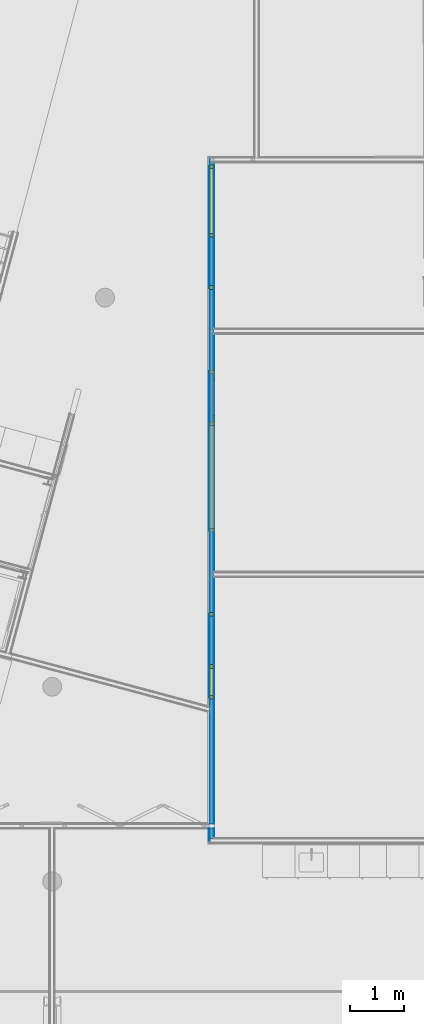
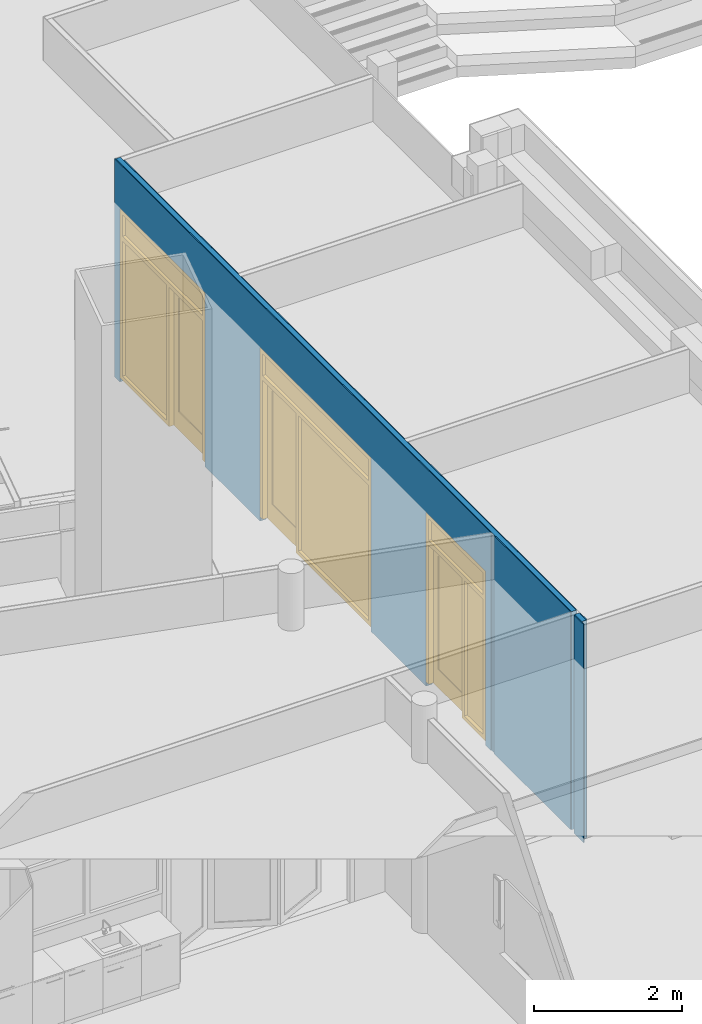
# One storey, part 57 of 167: 3 building element parts, 3 doors, 3 openings, 1 element without a shape of its own.
"""IFC2X3 building model written with IfcOpenShell, lengths in millimetres."""

from ifc_helpers import new_model, entity, si_unit, converted_unit, derived_unit, money_unit, direction, frame, origin_with_axes, place, context, subcontext, project, spatial, open_shell, faceted_brep, surface_model, material, type_object, element, fill, aggregate, save


model = new_model("IFC2X3")

# Units and contexts
model_context = context("Model", 3, precision=0.01, world=origin_with_axes(), true_north=direction((0.0, 1.0)))
plan_context = context("Plan", 3, precision=0.01, world=origin_with_axes(), true_north=direction((0.0, 1.0)))
body_context = subcontext(model_context, "Body", "Model", "MODEL_VIEW")
ifc_project = project(units=[si_unit("LENGTHUNIT", "METRE", prefix="MILLI"), si_unit("AREAUNIT", "SQUARE_METRE"), si_unit("VOLUMEUNIT", "CUBIC_METRE"), converted_unit("PLANEANGLEUNIT", "DEGREE", entity("IfcPlaneAngleMeasure", 0.0174532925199), si_unit("PLANEANGLEUNIT", "RADIAN"), dimensions=[0, 0, 0, 0, 0, 0, 0]), si_unit("SOLIDANGLEUNIT", "STERADIAN"), money_unit("EUR"), converted_unit("TIMEUNIT", "Year", entity("IfcTimeMeasure", 31556926.0), si_unit("TIMEUNIT", "SECOND"), dimensions=[0, 0, 1, 0, 0, 0, 0]), si_unit("MASSUNIT", "GRAM", prefix="KILO"), si_unit("THERMODYNAMICTEMPERATUREUNIT", "DEGREE_CELSIUS"), si_unit("LUMINOUSINTENSITYUNIT", "LUMEN"), si_unit("ENERGYUNIT", "JOULE", prefix="MEGA"), derived_unit("THERMALCONDUCTANCEUNIT", [(si_unit("POWERUNIT", "WATT"), 1), (si_unit("LENGTHUNIT", "METRE"), -1), (si_unit("THERMODYNAMICTEMPERATUREUNIT", "KELVIN"), -1)]), derived_unit("SPECIFICHEATCAPACITYUNIT", [(si_unit("ENERGYUNIT", "JOULE"), 1), (si_unit("MASSUNIT", "GRAM", prefix="KILO"), -1), (si_unit("THERMODYNAMICTEMPERATUREUNIT", "KELVIN"), -1)]), derived_unit("MASSDENSITYUNIT", [(si_unit("MASSUNIT", "GRAM", prefix="KILO"), 1), (si_unit("VOLUMEUNIT", "CUBIC_METRE"), -1)])], contexts=[model_context, plan_context])

# Site, building, storey
site_placement = place(None, origin_with_axes())
site = spatial("IfcSite", under=ifc_project, at=site_placement, Name="Site", CompositionType="ELEMENT")
building_placement = place(site_placement, origin_with_axes())
building = spatial("IfcBuilding", under=site, at=building_placement, Name="Naam gebouw", CompositionType="ELEMENT")
storey_placement = place(building_placement, origin_with_axes())
storey = spatial("IfcBuildingStorey", under=building, at=storey_placement, Name="Begane grond", CompositionType="ELEMENT", Elevation=0.0)

# Door
door_style_1 = type_object("IfcDoorStyle", Name="D1 bl zl1-b 24", ConstructionType="NOTDEFINED", OperationType="SINGLE_SWING_LEFT", ParameterTakesPrecedence=False, Sizeable=False)
wall_placement = place(storey_placement, frame((24550.0, 7950.0, -100.0), z_axis=(0.0, 0.0, 1.0), x_axis=(0.0, 1.0, 0.0)))
opening_1_placement = place(wall_placement, frame((3425.0, 0.0, 100.0), z_axis=(0.0, 0.0, 1.0), x_axis=(1.0, 0.0, 0.0)))
door_1_placement = place(opening_1_placement, frame((800.0, 0.0, 0.0), z_axis=(0.0, 0.0, 1.0), x_axis=(-1.0, 0.0, 0.0)))
door_1 = element("IfcDoor", 1, at=door_1_placement, inside=storey, type_object=door_style_1, Name="32_Deur_Hi-50", ObjectType="DOOR", OverallHeight=2800.0, OverallWidth=1600.0, context=body_context, shape_type="SurfaceModel", body=[
    faceted_brep([(1600.0, 64.0, 0.0), (1600.0, -50.0, 0.0), (1533.0, -50.0, 0.0), (1533.0, 64.0, 0.0), (1600.0, 64.0, 2733.0), (1600.0, -50.0, 2733.0), (1533.0, -50.0, 2733.0), (1533.0, -50.0, 2375.0), (1533.0, -50.0, 2300.0), (1533.0, -50.0, 67.0), (1533.0, 64.0, 67.0), (1533.0, 64.0, 2300.0), (1533.0, 64.0, 2375.0), (1533.0, 64.0, 2733.0)], [[[0, 1, 2, 3]], [[4, 5, 1, 0]], [[1, 5, 6, 7, 8, 9, 2]], [[3, 2, 9, 10]], [[0, 3, 10, 11, 12, 13, 4]], [[13, 6, 5, 4]], [[12, 7, 6, 13]], [[11, 8, 7, 12]], [[10, 9, 8, 11]]]),
    faceted_brep([(967.0, 24.0, 0.0), (967.0, -50.0, 0.0), (967.0, -50.0, 2300.0), (967.0, 24.0, 2300.0), (992.0, 24.0, 0.0), (992.0, 64.0, 0.0), (1034.0, 64.0, 0.0), (1034.0, -50.0, 0.0), (1034.0, -50.0, 67.0), (1034.0, -50.0, 2300.0), (992.0, 24.0, 2300.0), (1034.0, 64.0, 2300.0), (992.0, 64.0, 2300.0), (1034.0, 64.0, 67.0)], [[[0, 1, 2, 3]], [[4, 5, 6, 7, 1, 0]], [[7, 8, 9, 2, 1]], [[10, 3, 2, 9, 11, 12]], [[10, 4, 0, 3]], [[12, 5, 4, 10]], [[12, 11, 13, 6, 5]], [[6, 13, 8, 7]], [[13, 11, 9, 8]]]),
    faceted_brep([(1533.0, 64.0, 67.0), (1533.0, -50.0, 67.0), (1533.0, -50.0, 0.0), (1533.0, 64.0, 0.0), (1034.0, 64.0, 67.0), (1034.0, -50.0, 67.0), (1034.0, -50.0, 0.0), (1034.0, 64.0, 0.0)], [[[0, 1, 2, 3]], [[4, 5, 1, 0]], [[1, 5, 6, 2]], [[3, 2, 6, 7]], [[0, 3, 7, 4]], [[7, 6, 5, 4]]]),
    faceted_brep([(42.0, 64.0, 2325.0), (42.0, 64.0, 0.0), (0.0, 64.0, 0.0), (0.0, 64.0, 2733.0), (67.0, 64.0, 2733.0), (67.0, 64.0, 2375.0), (67.0, 64.0, 2325.0), (42.0, 24.0, 2325.0), (42.0, 24.0, 0.0), (67.0, 24.0, 0.0), (67.0, -50.0, 0.0), (0.0, -50.0, 0.0), (0.0, -50.0, 2733.0), (67.0, -50.0, 2733.0), (67.0, -50.0, 2375.0), (67.0, 24.0, 2325.0), (67.0, -50.0, 2300.0)], [[[0, 1, 2, 3, 4, 5, 6]], [[0, 7, 8, 1]], [[8, 9, 10, 11, 2, 1]], [[3, 2, 11, 12]], [[4, 3, 12, 13]], [[5, 4, 13, 14]], [[15, 6, 5, 14, 16, 10, 9]], [[6, 15, 7, 0]], [[8, 7, 15, 9]], [[14, 13, 12, 11, 10, 16]]]),
    faceted_brep([(1600.0, 64.0, 2800.0), (1600.0, -50.0, 2800.0), (1600.0, -50.0, 2733.0), (1600.0, 64.0, 2733.0), (0.0, 64.0, 2800.0), (0.0, -50.0, 2800.0), (0.0, -50.0, 2733.0), (67.0, -50.0, 2733.0), (1533.0, -50.0, 2733.0), (1533.0, 64.0, 2733.0), (67.0, 64.0, 2733.0), (0.0, 64.0, 2733.0)], [[[0, 1, 2, 3]], [[4, 5, 1, 0]], [[1, 5, 6, 7, 8, 2]], [[3, 2, 8, 9]], [[0, 3, 9, 10, 11, 4]], [[11, 6, 5, 4]], [[10, 7, 6, 11]], [[9, 8, 7, 10]]]),
    faceted_brep([(67.0, 24.0, 2325.0), (67.0, 24.0, 2300.0), (67.0, -50.0, 2300.0), (67.0, -50.0, 2375.0), (67.0, 64.0, 2375.0), (67.0, 64.0, 2325.0), (992.0, 24.0, 2325.0), (992.0, 24.0, 2300.0), (967.0, 24.0, 2300.0), (967.0, -50.0, 2300.0), (1034.0, -50.0, 2300.0), (1533.0, -50.0, 2300.0), (1533.0, -50.0, 2375.0), (1533.0, 64.0, 2375.0), (992.0, 64.0, 2325.0), (1533.0, 64.0, 2300.0), (1034.0, 64.0, 2300.0), (992.0, 64.0, 2300.0)], [[[0, 1, 2, 3, 4, 5]], [[0, 6, 7, 8, 1]], [[8, 9, 2, 1]], [[9, 10, 11, 12, 3, 2]], [[13, 4, 3, 12]], [[14, 5, 4, 13, 15, 16, 17]], [[5, 14, 6, 0]], [[17, 7, 6, 14]], [[7, 17, 16, 10, 9, 8]], [[16, 15, 11, 10]], [[15, 13, 12, 11]]]),
    faceted_brep([(42.0, 64.0, 300.0), (192.0, 64.0, 300.0), (192.0, 24.0, 300.0), (42.0, 24.0, 300.0), (42.0, 64.0, 2175.0), (192.0, 64.0, 2175.0), (192.0, 24.0, 2175.0), (42.0, 24.0, 2175.0)], [[[0, 1, 2, 3]], [[0, 4, 5, 1]], [[1, 5, 6, 2]], [[3, 2, 6, 7]], [[4, 0, 3, 7]], [[5, 4, 7, 6]]]),
    faceted_brep([(992.0, 64.0, 300.0), (992.0, 64.0, 2175.0), (992.0, 24.0, 2175.0), (992.0, 24.0, 300.0), (842.0, 64.0, 300.0), (842.0, 64.0, 2175.0), (842.0, 24.0, 2175.0), (842.0, 24.0, 300.0)], [[[0, 1, 2, 3]], [[0, 4, 5, 1]], [[1, 5, 6, 2]], [[3, 2, 6, 7]], [[4, 0, 3, 7]], [[5, 4, 7, 6]]]),
    faceted_brep([(42.0, 64.0, 0.0), (992.0, 64.0, 0.0), (992.0, 24.0, 0.0), (42.0, 24.0, 0.0), (42.0, 64.0, 300.0), (192.0, 64.0, 300.0), (842.0, 64.0, 300.0), (992.0, 64.0, 300.0), (992.0, 24.0, 300.0), (842.0, 24.0, 300.0), (192.0, 24.0, 300.0), (42.0, 24.0, 300.0)], [[[0, 1, 2, 3]], [[0, 4, 5, 6, 7, 1]], [[1, 7, 8, 2]], [[3, 2, 8, 9, 10, 11]], [[4, 0, 3, 11]], [[5, 4, 11, 10]], [[6, 5, 10, 9]], [[7, 6, 9, 8]]]),
    faceted_brep([(42.0, 64.0, 2325.0), (42.0, 64.0, 2175.0), (42.0, 24.0, 2175.0), (42.0, 24.0, 2325.0), (992.0, 64.0, 2325.0), (992.0, 64.0, 2175.0), (842.0, 64.0, 2175.0), (192.0, 64.0, 2175.0), (192.0, 24.0, 2175.0), (842.0, 24.0, 2175.0), (992.0, 24.0, 2175.0), (992.0, 24.0, 2325.0)], [[[0, 1, 2, 3]], [[0, 4, 5, 6, 7, 1]], [[1, 7, 8, 2]], [[3, 2, 8, 9, 10, 11]], [[4, 0, 3, 11]], [[5, 4, 11, 10]], [[6, 5, 10, 9]], [[7, 6, 9, 8]]]),
    surface_model("IfcShellBasedSurfaceModel", [(192.0, 50.0, 300.0), (192.0, 50.0, 2175.0), (842.0, 50.0, 2175.0), (842.0, 50.0, 300.0)], [open_shell([[[0, 1, 2, 3]]])]),
    surface_model("IfcShellBasedSurfaceModel", [(192.0, 38.0, 300.0), (842.0, 38.0, 300.0), (842.0, 38.0, 2175.0), (192.0, 38.0, 2175.0)], [open_shell([[[0, 1, 2, 3]]])]),
    surface_model("IfcShellBasedSurfaceModel", [(1533.0, 10.0, 2375.0), (67.0, 10.0, 2375.0), (67.0, 10.0, 2733.0), (1533.0, 10.0, 2733.0)], [open_shell([[[0, 1, 2, 3]]])]),
    surface_model("IfcShellBasedSurfaceModel", [(1533.0, -2.0, 2375.0), (1533.0, -2.0, 2733.0), (67.0, -2.0, 2733.0), (67.0, -2.0, 2375.0)], [open_shell([[[0, 1, 2, 3]]])]),
    surface_model("IfcShellBasedSurfaceModel", [(1533.0, 10.0, 67.0), (1034.0, 10.0, 67.0), (1034.0, 10.0, 2300.0), (1533.0, 10.0, 2300.0)], [open_shell([[[0, 1, 2, 3]]])]),
    surface_model("IfcShellBasedSurfaceModel", [(1533.0, -2.0, 67.0), (1533.0, -2.0, 2300.0), (1034.0, -2.0, 2300.0), (1034.0, -2.0, 67.0)], [open_shell([[[0, 1, 2, 3]]])]),
])

opening_2_placement = place(wall_placement, frame((7214.66540488, 0.0, 100.0), z_axis=(0.0, 0.0, 1.0), x_axis=(1.0, 0.0, 0.0)))
door_2_placement = place(opening_2_placement, frame((1500.0, 0.0, 0.0), z_axis=(0.0, 0.0, 1.0), x_axis=(-1.0, 0.0, 0.0)))
door_2 = element("IfcDoor", 2, at=door_2_placement, inside=storey, type_object=door_style_1, Name="32_Deur_Hi-14", ObjectType="DOOR", OverallHeight=2800.0, OverallWidth=3000.0, context=body_context, shape_type="SurfaceModel", body=[
    faceted_brep([(3000.0, 64.0, 0.0), (3000.0, -50.0, 0.0), (2933.0, -50.0, 0.0), (2933.0, 64.0, 0.0), (3000.0, 64.0, 2733.0), (3000.0, -50.0, 2733.0), (2933.0, -50.0, 2733.0), (2933.0, -50.0, 2375.0), (2933.0, -50.0, 2300.0), (2933.0, -50.0, 67.0), (2933.0, 64.0, 67.0), (2933.0, 64.0, 2300.0), (2933.0, 64.0, 2375.0), (2933.0, 64.0, 2733.0)], [[[0, 1, 2, 3]], [[4, 5, 1, 0]], [[1, 5, 6, 7, 8, 9, 2]], [[3, 2, 9, 10]], [[0, 3, 10, 11, 12, 13, 4]], [[13, 6, 5, 4]], [[12, 7, 6, 13]], [[11, 8, 7, 12]], [[10, 9, 8, 11]]]),
    faceted_brep([(967.0, 24.0, 0.0), (967.0, -50.0, 0.0), (967.0, -50.0, 2300.0), (967.0, 24.0, 2300.0), (992.0, 24.0, 0.0), (992.0, 64.0, 0.0), (1034.0, 64.0, 0.0), (1034.0, -50.0, 0.0), (1034.0, -50.0, 67.0), (1034.0, -50.0, 2300.0), (992.0, 24.0, 2300.0), (1034.0, 64.0, 2300.0), (992.0, 64.0, 2300.0), (1034.0, 64.0, 67.0)], [[[0, 1, 2, 3]], [[4, 5, 6, 7, 1, 0]], [[7, 8, 9, 2, 1]], [[10, 3, 2, 9, 11, 12]], [[10, 4, 0, 3]], [[12, 5, 4, 10]], [[12, 11, 13, 6, 5]], [[6, 13, 8, 7]], [[13, 11, 9, 8]]]),
    faceted_brep([(2933.0, 64.0, 67.0), (2933.0, -50.0, 67.0), (2933.0, -50.0, 0.0), (2933.0, 64.0, 0.0), (1034.0, 64.0, 67.0), (1034.0, -50.0, 67.0), (1034.0, -50.0, 0.0), (1034.0, 64.0, 0.0)], [[[0, 1, 2, 3]], [[4, 5, 1, 0]], [[1, 5, 6, 2]], [[3, 2, 6, 7]], [[0, 3, 7, 4]], [[7, 6, 5, 4]]]),
    faceted_brep([(42.0, 64.0, 2325.0), (42.0, 64.0, 0.0), (0.0, 64.0, 0.0), (0.0, 64.0, 2733.0), (67.0, 64.0, 2733.0), (67.0, 64.0, 2375.0), (67.0, 64.0, 2325.0), (42.0, 24.0, 2325.0), (42.0, 24.0, 0.0), (67.0, 24.0, 0.0), (67.0, -50.0, 0.0), (0.0, -50.0, 0.0), (0.0, -50.0, 2733.0), (67.0, -50.0, 2733.0), (67.0, -50.0, 2375.0), (67.0, 24.0, 2325.0), (67.0, -50.0, 2300.0)], [[[0, 1, 2, 3, 4, 5, 6]], [[0, 7, 8, 1]], [[8, 9, 10, 11, 2, 1]], [[3, 2, 11, 12]], [[4, 3, 12, 13]], [[5, 4, 13, 14]], [[15, 6, 5, 14, 16, 10, 9]], [[6, 15, 7, 0]], [[8, 7, 15, 9]], [[14, 13, 12, 11, 10, 16]]]),
    faceted_brep([(3000.0, 64.0, 2800.0), (3000.0, -50.0, 2800.0), (3000.0, -50.0, 2733.0), (3000.0, 64.0, 2733.0), (0.0, 64.0, 2800.0), (0.0, -50.0, 2800.0), (0.0, -50.0, 2733.0), (67.0, -50.0, 2733.0), (2933.0, -50.0, 2733.0), (2933.0, 64.0, 2733.0), (67.0, 64.0, 2733.0), (0.0, 64.0, 2733.0)], [[[0, 1, 2, 3]], [[4, 5, 1, 0]], [[1, 5, 6, 7, 8, 2]], [[3, 2, 8, 9]], [[0, 3, 9, 10, 11, 4]], [[11, 6, 5, 4]], [[10, 7, 6, 11]], [[9, 8, 7, 10]]]),
    faceted_brep([(67.0, 24.0, 2325.0), (67.0, 24.0, 2300.0), (67.0, -50.0, 2300.0), (67.0, -50.0, 2375.0), (67.0, 64.0, 2375.0), (67.0, 64.0, 2325.0), (992.0, 24.0, 2325.0), (992.0, 24.0, 2300.0), (967.0, 24.0, 2300.0), (967.0, -50.0, 2300.0), (1034.0, -50.0, 2300.0), (2933.0, -50.0, 2300.0), (2933.0, -50.0, 2375.0), (2933.0, 64.0, 2375.0), (992.0, 64.0, 2325.0), (2933.0, 64.0, 2300.0), (1034.0, 64.0, 2300.0), (992.0, 64.0, 2300.0)], [[[0, 1, 2, 3, 4, 5]], [[0, 6, 7, 8, 1]], [[8, 9, 2, 1]], [[9, 10, 11, 12, 3, 2]], [[13, 4, 3, 12]], [[14, 5, 4, 13, 15, 16, 17]], [[5, 14, 6, 0]], [[17, 7, 6, 14]], [[7, 17, 16, 10, 9, 8]], [[16, 15, 11, 10]], [[15, 13, 12, 11]]]),
    faceted_brep([(42.0, 64.0, 300.0), (192.0, 64.0, 300.0), (192.0, 24.0, 300.0), (42.0, 24.0, 300.0), (42.0, 64.0, 2175.0), (192.0, 64.0, 2175.0), (192.0, 24.0, 2175.0), (42.0, 24.0, 2175.0)], [[[0, 1, 2, 3]], [[0, 4, 5, 1]], [[1, 5, 6, 2]], [[3, 2, 6, 7]], [[4, 0, 3, 7]], [[5, 4, 7, 6]]]),
    faceted_brep([(992.0, 64.0, 300.0), (992.0, 64.0, 2175.0), (992.0, 24.0, 2175.0), (992.0, 24.0, 300.0), (842.0, 64.0, 300.0), (842.0, 64.0, 2175.0), (842.0, 24.0, 2175.0), (842.0, 24.0, 300.0)], [[[0, 1, 2, 3]], [[0, 4, 5, 1]], [[1, 5, 6, 2]], [[3, 2, 6, 7]], [[4, 0, 3, 7]], [[5, 4, 7, 6]]]),
    faceted_brep([(42.0, 64.0, 0.0), (992.0, 64.0, 0.0), (992.0, 24.0, 0.0), (42.0, 24.0, 0.0), (42.0, 64.0, 300.0), (192.0, 64.0, 300.0), (842.0, 64.0, 300.0), (992.0, 64.0, 300.0), (992.0, 24.0, 300.0), (842.0, 24.0, 300.0), (192.0, 24.0, 300.0), (42.0, 24.0, 300.0)], [[[0, 1, 2, 3]], [[0, 4, 5, 6, 7, 1]], [[1, 7, 8, 2]], [[3, 2, 8, 9, 10, 11]], [[4, 0, 3, 11]], [[5, 4, 11, 10]], [[6, 5, 10, 9]], [[7, 6, 9, 8]]]),
    faceted_brep([(42.0, 64.0, 2325.0), (42.0, 64.0, 2175.0), (42.0, 24.0, 2175.0), (42.0, 24.0, 2325.0), (992.0, 64.0, 2325.0), (992.0, 64.0, 2175.0), (842.0, 64.0, 2175.0), (192.0, 64.0, 2175.0), (192.0, 24.0, 2175.0), (842.0, 24.0, 2175.0), (992.0, 24.0, 2175.0), (992.0, 24.0, 2325.0)], [[[0, 1, 2, 3]], [[0, 4, 5, 6, 7, 1]], [[1, 7, 8, 2]], [[3, 2, 8, 9, 10, 11]], [[4, 0, 3, 11]], [[5, 4, 11, 10]], [[6, 5, 10, 9]], [[7, 6, 9, 8]]]),
    surface_model("IfcShellBasedSurfaceModel", [(192.0, 50.0, 300.0), (192.0, 50.0, 2175.0), (842.0, 50.0, 2175.0), (842.0, 50.0, 300.0)], [open_shell([[[0, 1, 2, 3]]])]),
    surface_model("IfcShellBasedSurfaceModel", [(192.0, 38.0, 300.0), (842.0, 38.0, 300.0), (842.0, 38.0, 2175.0), (192.0, 38.0, 2175.0)], [open_shell([[[0, 1, 2, 3]]])]),
    surface_model("IfcShellBasedSurfaceModel", [(2933.0, 9.99999999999, 2375.0), (67.0, 10.0, 2375.0), (67.0, 10.0, 2733.0), (2933.0, 9.99999999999, 2733.0)], [open_shell([[[0, 1, 2, 3]]])]),
    surface_model("IfcShellBasedSurfaceModel", [(2933.0, -2.0, 2375.0), (2933.0, -2.0, 2733.0), (67.0, -2.0, 2733.0), (67.0, -2.0, 2375.0)], [open_shell([[[0, 1, 2, 3]]])]),
    surface_model("IfcShellBasedSurfaceModel", [(2933.0, 9.99999999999, 67.0), (1034.0, 10.0, 67.0), (1034.0, 10.0, 2300.0), (2933.0, 9.99999999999, 2300.0)], [open_shell([[[0, 1, 2, 3]]])]),
    surface_model("IfcShellBasedSurfaceModel", [(2933.0, -2.0, 67.0), (2933.0, -2.0, 2300.0), (1034.0, -2.0, 2300.0), (1034.0, -2.0, 67.0)], [open_shell([[[0, 1, 2, 3]]])]),
])

door_style_2 = type_object("IfcDoorStyle", Name="D1 bl zl1-b 24", ConstructionType="NOTDEFINED", OperationType="SINGLE_SWING_RIGHT", ParameterTakesPrecedence=False, Sizeable=False)
opening_3_placement = place(wall_placement, frame((11355.1672976, 0.0, 100.0), z_axis=(0.0, 0.0, 1.0), x_axis=(1.0, 0.0, 0.0)))
door_3_placement = place(opening_3_placement, frame((1150.0, 0.0, 0.0), z_axis=(0.0, 0.0, 1.0), x_axis=(-1.0, 0.0, 0.0)))
door_3 = element("IfcDoor", 3, at=door_3_placement, inside=storey, type_object=door_style_2, Name="32_Deur_Hi-13", ObjectType="DOOR", OverallHeight=2800.0, OverallWidth=2300.0, context=body_context, shape_type="SurfaceModel", body=[
    faceted_brep([(0.0, 64.0, 0.0), (67.0, 64.0, 0.0), (67.0, -50.0, 0.0), (0.0, -50.0, 0.0), (0.0, 64.0, 2733.0), (67.0, 64.0, 2733.0), (67.0, 64.0, 2375.0), (67.0, 64.0, 2300.0), (67.0, 64.0, 67.0), (67.0, -50.0, 67.0), (67.0, -50.0, 2300.0), (67.0, -50.0, 2375.0), (67.0, -50.0, 2733.0), (0.0, -50.0, 2733.0)], [[[0, 1, 2, 3]], [[0, 4, 5, 6, 7, 8, 1]], [[1, 8, 9, 2]], [[3, 2, 9, 10, 11, 12, 13]], [[4, 0, 3, 13]], [[5, 4, 13, 12]], [[6, 5, 12, 11]], [[7, 6, 11, 10]], [[8, 7, 10, 9]]]),
    faceted_brep([(1333.0, 24.0, 0.0), (1333.0, 24.0, 2300.0), (1333.0, -50.0, 2300.0), (1333.0, -50.0, 0.0), (1308.0, 24.0, 2300.0), (1308.0, 24.0, 0.0), (1308.0, 64.0, 2300.0), (1266.0, 64.0, 2300.0), (1266.0, -50.0, 2300.0), (1266.0, -50.0, 0.0), (1266.0, -50.0, 67.0), (1266.0, 64.0, 0.0), (1308.0, 64.0, 0.0), (1266.0, 64.0, 67.0)], [[[0, 1, 2, 3]], [[4, 1, 0, 5]], [[4, 6, 7, 8, 2, 1]], [[9, 3, 2, 8, 10]], [[5, 0, 3, 9, 11, 12]], [[6, 4, 5, 12]], [[6, 12, 11, 13, 7]], [[13, 10, 8, 7]], [[11, 9, 10, 13]]]),
    faceted_brep([(67.0, 64.0, 67.0), (67.0, 64.0, 0.0), (67.0, -50.0, 0.0), (67.0, -50.0, 67.0), (1266.0, 64.0, 67.0), (1266.0, 64.0, 0.0), (1266.0, -50.0, 0.0), (1266.0, -50.0, 67.0)], [[[0, 1, 2, 3]], [[0, 4, 5, 1]], [[1, 5, 6, 2]], [[3, 2, 6, 7]], [[4, 0, 3, 7]], [[5, 4, 7, 6]]]),
    faceted_brep([(2258.0, 64.0, 2325.0), (2233.0, 64.0, 2325.0), (2233.0, 64.0, 2375.0), (2233.0, 64.0, 2733.0), (2300.0, 64.0, 2733.0), (2300.0, 64.0, 0.0), (2258.0, 64.0, 0.0), (2258.0, 24.0, 2325.0), (2233.0, 24.0, 2325.0), (2233.0, 24.0, 0.0), (2233.0, -50.0, 0.0), (2233.0, -50.0, 2300.0), (2233.0, -50.0, 2375.0), (2233.0, -50.0, 2733.0), (2300.0, -50.0, 2733.0), (2300.0, -50.0, 0.0), (2258.0, 24.0, 0.0)], [[[0, 1, 2, 3, 4, 5, 6]], [[1, 0, 7, 8]], [[8, 9, 10, 11, 12, 2, 1]], [[2, 12, 13, 3]], [[3, 13, 14, 4]], [[4, 14, 15, 5]], [[16, 6, 5, 15, 10, 9]], [[0, 6, 16, 7]], [[16, 9, 8, 7]], [[12, 11, 10, 15, 14, 13]]]),
    faceted_brep([(0.0, 64.0, 2800.0), (0.0, 64.0, 2733.0), (0.0, -50.0, 2733.0), (0.0, -50.0, 2800.0), (2300.0, 64.0, 2800.0), (2300.0, 64.0, 2733.0), (2233.0, 64.0, 2733.0), (67.0, 64.0, 2733.0), (67.0, -50.0, 2733.0), (2233.0, -50.0, 2733.0), (2300.0, -50.0, 2733.0), (2300.0, -50.0, 2800.0)], [[[0, 1, 2, 3]], [[0, 4, 5, 6, 7, 1]], [[1, 7, 8, 2]], [[3, 2, 8, 9, 10, 11]], [[4, 0, 3, 11]], [[5, 4, 11, 10]], [[6, 5, 10, 9]], [[7, 6, 9, 8]]]),
    faceted_brep([(2233.0, 24.0, 2325.0), (2233.0, 64.0, 2325.0), (2233.0, 64.0, 2375.0), (2233.0, -50.0, 2375.0), (2233.0, -50.0, 2300.0), (2233.0, 24.0, 2300.0), (1308.0, 24.0, 2325.0), (1308.0, 64.0, 2325.0), (1308.0, 64.0, 2300.0), (1266.0, 64.0, 2300.0), (67.0, 64.0, 2300.0), (67.0, 64.0, 2375.0), (67.0, -50.0, 2375.0), (1333.0, -50.0, 2300.0), (67.0, -50.0, 2300.0), (1266.0, -50.0, 2300.0), (1333.0, 24.0, 2300.0), (1308.0, 24.0, 2300.0)], [[[0, 1, 2, 3, 4, 5]], [[1, 0, 6, 7]], [[7, 8, 9, 10, 11, 2, 1]], [[11, 12, 3, 2]], [[13, 4, 3, 12, 14, 15]], [[16, 5, 4, 13]], [[0, 5, 16, 17, 6]], [[8, 7, 6, 17]], [[17, 16, 13, 15, 9, 8]], [[9, 15, 14, 10]], [[10, 14, 12, 11]]]),
    faceted_brep([(2258.0, 64.0, 300.0), (2258.0, 24.0, 300.0), (2108.0, 24.0, 300.0), (2108.0, 64.0, 300.0), (2258.0, 64.0, 2175.0), (2258.0, 24.0, 2175.0), (2108.0, 24.0, 2175.0), (2108.0, 64.0, 2175.0)], [[[0, 1, 2, 3]], [[4, 5, 1, 0]], [[1, 5, 6, 2]], [[3, 2, 6, 7]], [[0, 3, 7, 4]], [[7, 6, 5, 4]]]),
    faceted_brep([(1308.0, 64.0, 300.0), (1308.0, 24.0, 300.0), (1308.0, 24.0, 2175.0), (1308.0, 64.0, 2175.0), (1458.0, 64.0, 300.0), (1458.0, 24.0, 300.0), (1458.0, 24.0, 2175.0), (1458.0, 64.0, 2175.0)], [[[0, 1, 2, 3]], [[4, 5, 1, 0]], [[1, 5, 6, 2]], [[3, 2, 6, 7]], [[0, 3, 7, 4]], [[7, 6, 5, 4]]]),
    faceted_brep([(2258.0, 64.0, 0.0), (2258.0, 24.0, 0.0), (1308.0, 24.0, 0.0), (1308.0, 64.0, 0.0), (2258.0, 64.0, 300.0), (2258.0, 24.0, 300.0), (2108.0, 24.0, 300.0), (1458.0, 24.0, 300.0), (1308.0, 24.0, 300.0), (1308.0, 64.0, 300.0), (1458.0, 64.0, 300.0), (2108.0, 64.0, 300.0)], [[[0, 1, 2, 3]], [[4, 5, 1, 0]], [[1, 5, 6, 7, 8, 2]], [[3, 2, 8, 9]], [[0, 3, 9, 10, 11, 4]], [[11, 6, 5, 4]], [[10, 7, 6, 11]], [[9, 8, 7, 10]]]),
    faceted_brep([(2258.0, 64.0, 2325.0), (2258.0, 24.0, 2325.0), (2258.0, 24.0, 2175.0), (2258.0, 64.0, 2175.0), (1308.0, 64.0, 2325.0), (1308.0, 24.0, 2325.0), (1308.0, 24.0, 2175.0), (1458.0, 24.0, 2175.0), (2108.0, 24.0, 2175.0), (2108.0, 64.0, 2175.0), (1458.0, 64.0, 2175.0), (1308.0, 64.0, 2175.0)], [[[0, 1, 2, 3]], [[4, 5, 1, 0]], [[1, 5, 6, 7, 8, 2]], [[3, 2, 8, 9]], [[0, 3, 9, 10, 11, 4]], [[11, 6, 5, 4]], [[10, 7, 6, 11]], [[9, 8, 7, 10]]]),
    surface_model("IfcShellBasedSurfaceModel", [(2108.0, 50.0, 300.0), (1458.0, 50.0, 300.0), (1458.0, 50.0, 2175.0), (2108.0, 50.0, 2175.0)], [open_shell([[[0, 1, 2, 3]]])]),
    surface_model("IfcShellBasedSurfaceModel", [(2108.0, 38.0, 300.0), (2108.0, 38.0, 2175.0), (1458.0, 38.0, 2175.0), (1458.0, 38.0, 300.0)], [open_shell([[[0, 1, 2, 3]]])]),
    surface_model("IfcShellBasedSurfaceModel", [(67.0, 10.0, 2375.0), (67.0, 10.0, 2733.0), (2233.0, 10.0, 2733.0), (2233.0, 10.0, 2375.0)], [open_shell([[[0, 1, 2, 3]]])]),
    surface_model("IfcShellBasedSurfaceModel", [(67.0, -2.0, 2375.0), (2233.0, -2.0, 2375.0), (2233.0, -2.0, 2733.0), (67.0, -2.0, 2733.0)], [open_shell([[[0, 1, 2, 3]]])]),
    surface_model("IfcShellBasedSurfaceModel", [(67.0, 10.0, 67.0), (67.0, 10.0, 2300.0), (1266.0, 10.0, 2300.0), (1266.0, 10.0, 67.0)], [open_shell([[[0, 1, 2, 3]]])]),
    surface_model("IfcShellBasedSurfaceModel", [(67.0, -2.0, 67.0), (1266.0, -2.0, 67.0), (1266.0, -2.0, 2300.0), (67.0, -2.0, 2300.0)], [open_shell([[[0, 1, 2, 3]]])]),
])

# Wall, opening
wall_type = type_object("IfcWallType", Name="_TenW_22_Metalstud 100 enkel gipsvezelplaat 100", PredefinedType="NOTDEFINED")
wall = element("IfcWall", 4, at=wall_placement, inside=storey, type_object=wall_type, Name="22_Wand_Wand-x")
opening_1 = element("IfcOpeningElement", 5, at=opening_1_placement, cuts=wall, Name="32_Deur_Hi-50", context=body_context, shape_type="Brep", body=[
    faceted_brep([(800.0, 200.0, 0.0), (800.0, 200.0, 2800.0), (800.0, -100.0, 2800.0), (800.0, -100.0, 0.0), (-800.0, 200.0, 0.0), (-800.0, 200.0, 2800.0), (-800.0, -100.0, 2800.0), (-800.0, -100.0, 0.0)], [[[0, 1, 2, 3]], [[0, 4, 5, 1]], [[1, 5, 6, 2]], [[3, 2, 6, 7]], [[4, 0, 3, 7]], [[5, 4, 7, 6]]]),
])

fill(opening_1, door_1)

# Opening
opening_2 = element("IfcOpeningElement", 6, at=opening_2_placement, cuts=wall, Name="32_Deur_Hi-14", context=body_context, shape_type="Brep", body=[
    faceted_brep([(1500.0, 200.0, 0.0), (1500.0, 200.0, 2800.0), (1500.0, -100.0, 2800.0), (1500.0, -100.0, 0.0), (-1500.0, 200.0, 0.0), (-1500.0, 200.0, 2800.0), (-1500.0, -100.0, 2800.0), (-1500.0, -100.0, 0.0)], [[[0, 1, 2, 3]], [[0, 4, 5, 1]], [[1, 5, 6, 2]], [[3, 2, 6, 7]], [[4, 0, 3, 7]], [[5, 4, 7, 6]]]),
])

fill(opening_2, door_2)

opening_3 = element("IfcOpeningElement", 7, at=opening_3_placement, cuts=wall, Name="32_Deur_Hi-13", context=body_context, shape_type="Brep", body=[
    faceted_brep([(-1150.0, -100.0, 0.0), (-1150.0, -100.0, 2800.0), (-1150.0, 200.0, 2800.0), (-1150.0, 200.0, 0.0), (1150.0, -100.0, 0.0), (1150.0, -100.0, 2800.0), (1150.0, 200.0, 2800.0), (1150.0, 200.0, 0.0)], [[[0, 1, 2, 3]], [[0, 4, 5, 1]], [[1, 5, 6, 2]], [[3, 2, 6, 7]], [[4, 0, 3, 7]], [[5, 4, 7, 6]]]),
])

fill(opening_3, door_3)

# Building element part
ifc_material_1 = material(Name="Gipsplaat watervast")
building_element_part_1_placement = place(wall_placement, origin_with_axes())
building_element_part_1 = element("IfcBuildingElementPart", 8, at=building_element_part_1_placement, material=ifc_material_1, Name="Gipsplaat watervast", context=body_context, shape_type="Brep", body=[
    faceted_brep([(223.347838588, 50.0, 3630.0), (223.347838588, 37.5, 3630.0), (223.347838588, 37.5, 30.0), (223.347838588, 50.0, 30.0), (0.0, 37.5, 3630.0), (0.0, 50.0, 3630.0), (-37.5, 50.0, 3629.99999995), (-37.5, 37.5, 3629.99999995), (-37.5, 37.5, 30.0), (-37.5, 50.0, 30.0)], [[[0, 1, 2, 3]], [[4, 1, 0, 5, 6, 7]], [[1, 4, 7, 8, 2]], [[3, 2, 8, 9]], [[5, 0, 3, 9, 6]], [[9, 8, 7, 6]]]),
    faceted_brep([(10205.1672976, 37.5, 100.0), (10205.1672976, 37.5, 2900.0), (12505.1672976, 37.5, 2900.0), (12505.1672976, 37.5, 100.0), (12505.1672976, 37.5, 30.0), (12650.0, 37.5, 30.0), (12650.0, 37.5, 3630.0), (2467.13993842, 37.5, 3630.0), (2467.13993842, 37.5, 30.0), (2625.0, 37.5, 30.0), (2625.0, 37.5, 100.0), (2625.0, 37.5, 2900.0), (4225.0, 37.5, 2900.0), (4225.0, 37.5, 100.0), (4225.0, 37.5, 30.0), (5714.66540488, 37.5, 30.0), (5714.66540488, 37.5, 100.0), (5714.66540488, 37.5, 2900.0), (8714.66540488, 37.5, 2900.0), (8714.66540488, 37.5, 100.0), (8714.66540488, 37.5, 30.0), (10205.1672976, 37.5, 30.0), (10205.1672976, 50.0, 100.0), (10205.1672976, 50.0, 2900.0), (12505.1672976, 50.0, 2900.0), (12505.1672976, 50.0, 100.0), (12505.1672976, 50.0, 30.0), (12650.0, 50.0, 30.0), (12650.0, 50.0, 3630.0), (2470.48930332, 50.0, 3630.0), (2470.48930332, 50.0, 30.0), (2625.0, 50.0, 30.0), (2625.0, 50.0, 100.0), (2625.0, 50.0, 2900.0), (4225.0, 50.0, 2900.0), (4225.0, 50.0, 100.0), (4225.0, 50.0, 30.0), (5714.66540488, 50.0, 30.0), (5714.66540488, 50.0, 100.0), (5714.66540488, 50.0, 2900.0), (8714.66540488, 50.0, 2900.0), (8714.66540488, 50.0, 100.0), (8714.66540488, 50.0, 30.0), (10205.1672976, 50.0, 30.0)], [[[0, 1, 2, 3, 4, 5, 6, 7, 8, 9, 10, 11, 12, 13, 14, 15, 16, 17, 18, 19, 20, 21]], [[1, 0, 22, 23]], [[2, 1, 23, 24]], [[3, 2, 24, 25]], [[3, 25, 26, 4]], [[5, 4, 26, 27]], [[27, 28, 6, 5]], [[29, 7, 6, 28]], [[8, 7, 29, 30]], [[30, 31, 9, 8]], [[9, 31, 32, 10]], [[32, 33, 11, 10]], [[33, 34, 12, 11]], [[34, 35, 13, 12]], [[36, 14, 13, 35]], [[36, 37, 15, 14]], [[16, 15, 37, 38]], [[16, 38, 39, 17]], [[17, 39, 40, 18]], [[18, 40, 41, 19]], [[41, 42, 20, 19]], [[42, 43, 21, 20]], [[22, 0, 21, 43]], [[23, 22, 43, 42, 41, 40, 39, 38, 37, 36, 35, 34, 33, 32, 31, 30, 29, 28, 27, 26, 25, 24]]]),
    faceted_brep([(2392.84358979, 50.0, 3630.0), (2389.49422489, 37.5, 3630.0), (2389.49422489, 37.5, 30.0), (2392.84358979, 50.0, 30.0), (323.347838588, 37.5, 3630.0), (323.347838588, 50.0, 3630.0), (323.347838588, 37.5, 30.0), (323.347838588, 50.0, 30.0)], [[[0, 1, 2, 3]], [[4, 1, 0, 5]], [[1, 4, 6, 2]], [[3, 2, 6, 7]], [[5, 0, 3, 7]], [[4, 5, 7, 6]]]),
])

ifc_material_2 = material(Name="Isolatie - Steenwol zacht")
building_element_part_2_placement = place(wall_placement, origin_with_axes())
building_element_part_2 = element("IfcBuildingElementPart", 9, at=building_element_part_2_placement, material=ifc_material_2, Name="Isolatie - Steenwol zacht", context=body_context, shape_type="Brep", body=[
    faceted_brep([(12562.5, -37.5, 100.0), (12562.5, -37.5, 2900.0), (12637.5, -37.5, 2900.0), (12637.5, -37.5, 3630.0), (310.847838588, -37.5, 3630.0), (310.847838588, -37.5, 30.0), (2625.0, -37.5, 30.0), (2625.0, -37.5, 100.0), (2625.0, -37.5, 2900.0), (4225.0, -37.5, 2900.0), (4225.0, -37.5, 100.0), (4225.0, -37.5, 30.0), (5714.66540488, -37.5, 30.0), (5714.66540488, -37.5, 100.0), (5714.66540488, -37.5, 2900.0), (8714.66540488, -37.5, 2900.0), (8714.66540488, -37.5, 100.0), (8714.66540488, -37.5, 30.0), (10205.1672976, -37.5, 30.0), (10205.1672976, -37.5, 100.0), (10205.1672976, -37.5, 2900.0), (12505.1672976, -37.5, 2900.0), (12505.1672976, -37.5, 100.0), (12505.1672976, -37.5, 30.0), (12637.5, -37.5, 30.0), (12637.5, -37.5, 100.0), (12621.0294456, 21.0294456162, 100.0), (12621.0294456, 21.0294456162, 2900.0), (12637.5, 21.0294456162, 2900.0), (12637.5, 21.0294456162, 100.0), (12637.5, 37.5, 30.0), (12637.5, 37.5, 3630.0), (310.847838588, 37.5, 3630.0), (310.847838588, 37.5, 30.0), (2625.0, 37.5, 30.0), (2625.0, 37.5, 100.0), (2625.0, 37.5, 2900.0), (4225.0, 37.5, 2900.0), (4225.0, 37.5, 100.0), (4225.0, 37.5, 30.0), (5714.66540488, 37.5, 30.0), (5714.66540488, 37.5, 100.0), (5714.66540488, 37.5, 2900.0), (8714.66540488, 37.5, 2900.0), (8714.66540488, 37.5, 100.0), (8714.66540488, 37.5, 30.0), (10205.1672976, 37.5, 30.0), (10205.1672976, 37.5, 100.0), (10205.1672976, 37.5, 2900.0), (12505.1672976, 37.5, 2900.0), (12505.1672976, 37.5, 100.0), (12505.1672976, 37.5, 30.0)], [[[0, 1, 2, 3, 4, 5, 6, 7, 8, 9, 10, 11, 12, 13, 14, 15, 16, 17, 18, 19, 20, 21, 22, 23, 24, 25]], [[1, 0, 26, 27]], [[28, 2, 1, 27]], [[29, 25, 24, 30, 31, 3, 2, 28]], [[31, 32, 4, 3]], [[33, 5, 4, 32]], [[5, 33, 34, 6]], [[7, 6, 34, 35]], [[7, 35, 36, 8]], [[8, 36, 37, 9]], [[9, 37, 38, 10]], [[38, 39, 11, 10]], [[11, 39, 40, 12]], [[41, 13, 12, 40]], [[14, 13, 41, 42]], [[15, 14, 42, 43]], [[16, 15, 43, 44]], [[16, 44, 45, 17]], [[17, 45, 46, 18]], [[46, 47, 19, 18]], [[48, 20, 19, 47]], [[49, 21, 20, 48]], [[50, 22, 21, 49]], [[23, 22, 50, 51]], [[30, 24, 23, 51]], [[0, 25, 29, 26]], [[29, 28, 27, 26]], [[49, 48, 47, 46, 45, 44, 43, 42, 41, 40, 39, 38, 37, 36, 35, 34, 33, 32, 31, 30, 51, 50]]]),
    faceted_brep([(235.847838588, 37.5, 3630.0), (235.847838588, -37.5, 3630.0), (235.847838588, -37.5, 30.0), (235.847838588, 37.5, 30.0), (37.5, -37.5, 3630.0), (37.5, 37.5, 3630.0), (37.5, -37.5, 30.0), (37.5, 37.5, 30.0)], [[[0, 1, 2, 3]], [[4, 1, 0, 5]], [[1, 4, 6, 2]], [[3, 2, 6, 7]], [[5, 0, 3, 7]], [[4, 5, 7, 6]]]),
])

building_element_part_3_placement = place(wall_placement, origin_with_axes())
building_element_part_3 = element("IfcBuildingElementPart", 10, at=building_element_part_3_placement, material=ifc_material_1, Name="Gipsplaat watervast", context=body_context, shape_type="Brep", body=[
    faceted_brep([(12549.9999888, -50.0000111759, 100.0), (12549.9999888, -50.0000111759, 2900.0), (12562.5, -50.0, 2900.0), (12562.5, -50.0, 3630.0), (9462.5, -50.0, 3630.0), (9462.5, -50.0, 30.0), (10205.1672976, -50.0, 30.0), (10205.1672976, -50.0, 100.0), (10205.1672976, -50.0, 2900.0), (12505.1672976, -50.0, 2900.0), (12505.1672976, -50.0, 100.0), (12505.1672976, -50.0, 30.0), (12562.5, -50.0, 30.0), (12562.5, -50.0, 100.0), (12562.5, -37.5, 100.0), (12562.5, -37.5, 2900.0), (12562.5, -37.5, 3630.0), (9462.5, -37.5, 3630.0), (9462.5, -37.5, 30.0), (10205.1672976, -37.5, 30.0), (10205.1672976, -37.5, 100.0), (10205.1672976, -37.5, 2900.0), (12505.1672976, -37.5, 2900.0), (12505.1672976, -37.5, 100.0), (12505.1672976, -37.5, 30.0), (12562.5, -37.5, 30.0)], [[[0, 1, 2, 3, 4, 5, 6, 7, 8, 9, 10, 11, 12, 13]], [[14, 15, 1, 0]], [[15, 2, 1]], [[2, 15, 16, 3]], [[4, 3, 16, 17]], [[4, 17, 18, 5]], [[19, 6, 5, 18]], [[19, 20, 7, 6]], [[21, 8, 7, 20]], [[22, 9, 8, 21]], [[23, 10, 9, 22]], [[11, 10, 23, 24]], [[11, 24, 25, 12]], [[14, 13, 12, 25]], [[0, 13, 14]], [[15, 14, 25, 24, 23, 22, 21, 20, 19, 18, 17, 16]]]),
    faceted_brep([(223.347838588, -37.5, 3630.0), (223.347838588, -50.0, 3630.0), (223.347838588, -50.0, 30.0), (223.347838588, -37.5, 30.0), (50.0, -50.0, 3630.0), (50.0, -37.5, 3630.0), (50.0, -50.0, 30.0), (50.0, -37.5, 30.0)], [[[0, 1, 2, 3]], [[4, 1, 0, 5]], [[1, 4, 6, 2]], [[3, 2, 6, 7]], [[5, 0, 3, 7]], [[4, 5, 7, 6]]]),
    faceted_brep([(5714.66540488, -50.0, 100.0), (5714.66540488, -50.0, 2900.0), (8714.66540488, -50.0, 2900.0), (8714.66540488, -50.0, 100.0), (8714.66540488, -50.0, 30.0), (9387.5, -50.0, 30.0), (9387.5, -50.0, 3630.0), (4962.5, -50.0, 3630.0), (4962.5, -50.0, 30.0), (5714.66540488, -50.0, 30.0), (5714.66540488, -37.5, 100.0), (5714.66540488, -37.5, 2900.0), (8714.66540488, -37.5, 2900.0), (8714.66540488, -37.5, 100.0), (8714.66540488, -37.5, 30.0), (9387.5, -37.5, 30.0), (9387.5, -37.5, 3630.0), (4962.5, -37.5, 3630.0), (4962.5, -37.5, 30.0), (5714.66540488, -37.5, 30.0)], [[[0, 1, 2, 3, 4, 5, 6, 7, 8, 9]], [[1, 0, 10, 11]], [[2, 1, 11, 12]], [[3, 2, 12, 13]], [[3, 13, 14, 4]], [[14, 15, 5, 4]], [[6, 5, 15, 16]], [[6, 16, 17, 7]], [[17, 18, 8, 7]], [[9, 8, 18, 19]], [[10, 0, 9, 19]], [[11, 10, 19, 18, 17, 16, 15, 14, 13, 12]]]),
    faceted_brep([(2625.0, -50.0, 100.0), (2625.0, -50.0, 2900.0), (4225.0, -50.0, 2900.0), (4225.0, -50.0, 100.0), (4225.0, -50.0, 30.0), (4887.5, -50.0, 30.0), (4887.5, -50.0, 3630.0), (323.347838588, -50.0, 3630.0), (323.347838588, -50.0, 30.0), (2625.0, -50.0, 30.0), (2625.0, -37.5, 100.0), (2625.0, -37.5, 2900.0), (4225.0, -37.5, 2900.0), (4225.0, -37.5, 100.0), (4225.0, -37.5, 30.0), (4887.5, -37.5, 30.0), (4887.5, -37.5, 3630.0), (323.347838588, -37.5, 3630.0), (323.347838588, -37.5, 30.0), (2625.0, -37.5, 30.0)], [[[0, 1, 2, 3, 4, 5, 6, 7, 8, 9]], [[1, 0, 10, 11]], [[2, 1, 11, 12]], [[3, 2, 12, 13]], [[3, 13, 14, 4]], [[14, 15, 5, 4]], [[6, 5, 15, 16]], [[6, 16, 17, 7]], [[17, 18, 8, 7]], [[9, 8, 18, 19]], [[10, 0, 9, 19]], [[11, 10, 19, 18, 17, 16, 15, 14, 13, 12]]]),
])

aggregate(wall, [building_element_part_1, building_element_part_2, building_element_part_3])

save(model, "model.ifc")
